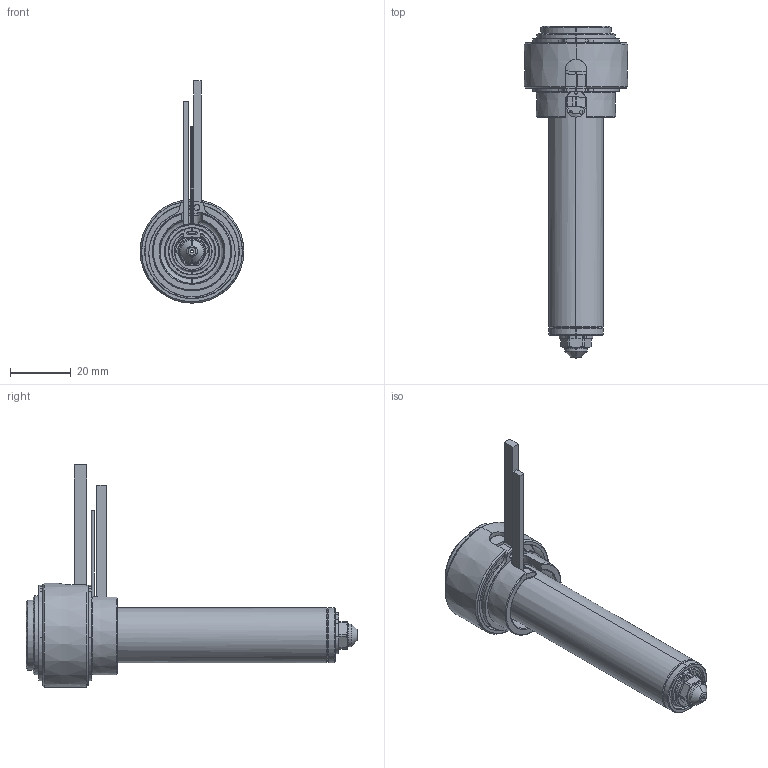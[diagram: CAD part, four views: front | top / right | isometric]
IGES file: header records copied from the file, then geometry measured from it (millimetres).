
Start section: SolidWorks IGES file using analytic representation for surfaces
Global section: file name: C:\Documents and Settings\ws-20\Desktop\TEM\UGER2503-M-A-1 [Øb-0.90 ØC-4.0].IGS; native system: SolidWorks 2012; preprocessor: SolidWorks 2012; author: ws-20; date: 120405.101911; units: millimetre
Bounding box: 34 x 108.9 x 72.9 mm (x, y, z)
Surface area: 24422 mm2 (no closed solid volume)
Topology: 0 solids, 0 shells, 190 faces, 2419 edges, 2419 vertices
Faces by surface type: revolution 120, bspline 70
